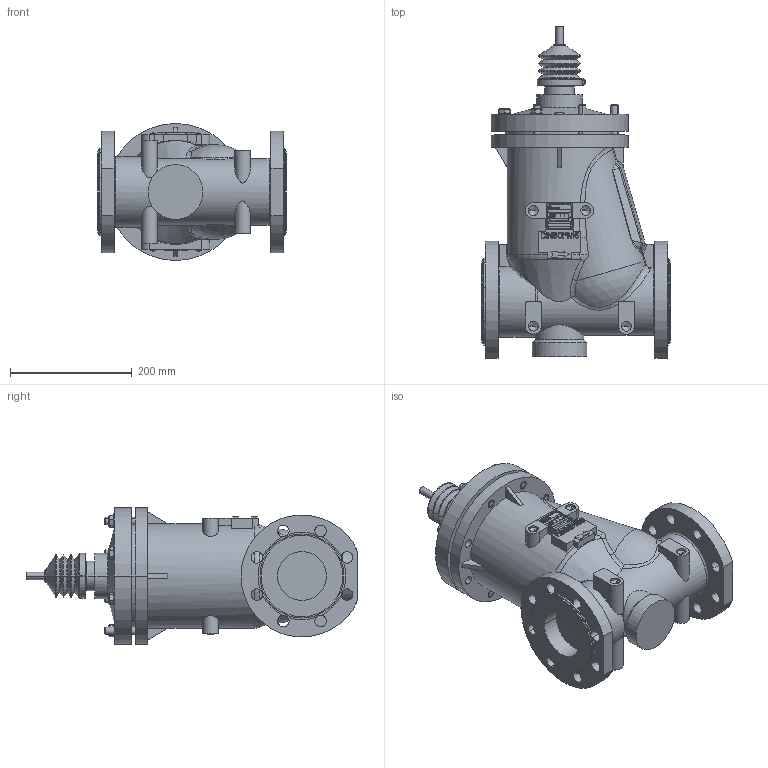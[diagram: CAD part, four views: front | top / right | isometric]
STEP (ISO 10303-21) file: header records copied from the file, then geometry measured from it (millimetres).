
FILE_DESCRIPTION((''),'2;1');
FILE_NAME('9560-00-5007_A_SW0001','2014-07-02T',('mclefen'),(''),'PRO/ENGINEER BY PARAMETRIC TECHNOLOGY CORPORATION, 2011040','PRO/ENGINEER BY PARAMETRIC TECHNOLOGY CORPORATION, 2011040','');
FILE_SCHEMA(('CONFIG_CONTROL_DESIGN'));
Products named in the file (1): 9560-00-5007_A_SW0001
Bounding box: 310 x 545 x 225 mm (x, y, z)
Volume: 11996063.4 mm3; surface area: 684078.3 mm2
Topology: 10 solids, 12 shells, 2763 faces, 7658 edges, 5027 vertices
Faces by surface type: plane 2284, cylinder 257, cone 100, bspline 70, torus 44, sphere 8
Entity records: 95392 total; most frequent: CARTESIAN_POINT 24807, ORIENTED_EDGE 15276, DIRECTION 13474, EDGE_CURVE 7638, VECTOR 6576, LINE 6576, VERTEX_POINT 5027, AXIS2_PLACEMENT_3D 3449
